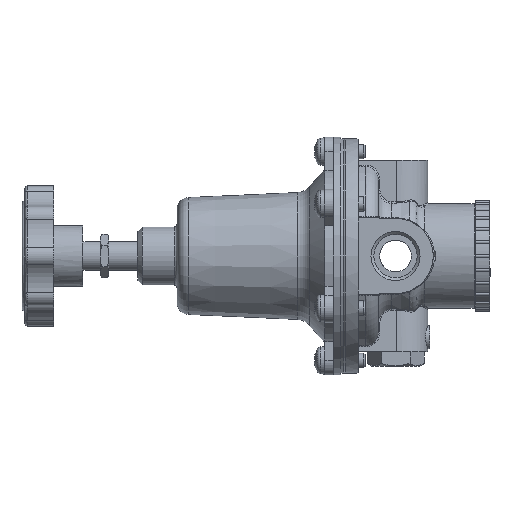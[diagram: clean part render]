
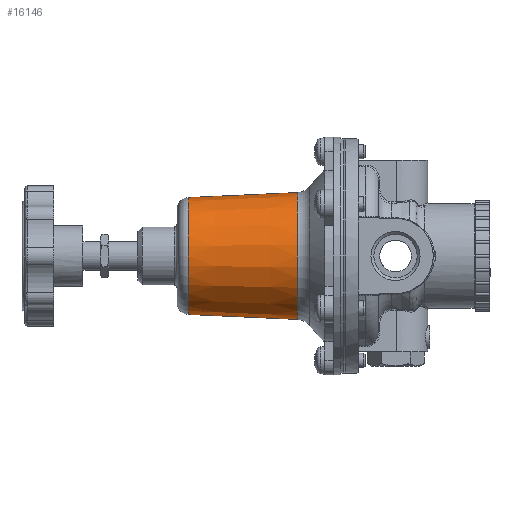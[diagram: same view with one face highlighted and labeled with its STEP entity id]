
A CAD part, left-side view. The second image highlights one B-rep face of the part: STEP entity #16146.
In plain terms, the highlighted conical face has half-angle 2.603 degrees and reference radius 21 mm.
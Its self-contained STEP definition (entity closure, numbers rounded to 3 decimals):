
#709=B_SPLINE_CURVE_WITH_KNOTS('',3,(#31273,#31274,#31275,#31276,#31277,
#31278,#31279,#31280,#31281,#31282,#31283,#31284,#31285,#31286,#31287,#31288,
#31289,#31290,#31291,#31292,#31293,#31294,#31295,#31296,#31297,#31298),
 .UNSPECIFIED.,.F.,.F.,(4,2,2,2,2,2,2,2,2,2,2,2,4),(0.,0.075,
0.15,0.225,0.301,0.376,
0.451,0.526,0.601,0.677,
0.753,0.828,0.904),.UNSPECIFIED.);
#710=B_SPLINE_CURVE_WITH_KNOTS('',3,(#31299,#31300,#31301,#31302,#31303,
#31304,#31305,#31306,#31307,#31308),.UNSPECIFIED.,.F.,.F.,(4,2,2,2,4),(0.904,
0.98,1.055,1.131,1.207),
 .UNSPECIFIED.);
#1002=FACE_BOUND('',#3529,.T.);
#2545=FACE_OUTER_BOUND('',#3528,.T.);
#3528=EDGE_LOOP('',(#13501,#13502,#13503,#13504,#13505,#13506));
#3529=EDGE_LOOP('',(#13507,#13508));
#4411=LINE('',#31585,#5182);
#5182=VECTOR('',#21635,21.);
#6131=CIRCLE('',#17913,21.884);
#6135=CIRCLE('',#17917,21.884);
#6136=CIRCLE('',#17919,20.174);
#6137=CIRCLE('',#17920,20.174);
#7407=VERTEX_POINT('',#31271);
#7408=VERTEX_POINT('',#31272);
#7491=VERTEX_POINT('',#31574);
#7492=VERTEX_POINT('',#31575);
#7495=VERTEX_POINT('',#31584);
#7496=VERTEX_POINT('',#31586);
#9471=EDGE_CURVE('',#7407,#7408,#709,.T.);
#9472=EDGE_CURVE('',#7408,#7407,#710,.T.);
#9605=EDGE_CURVE('',#7491,#7492,#6131,.T.);
#9609=EDGE_CURVE('',#7492,#7491,#6135,.T.);
#9610=EDGE_CURVE('',#7491,#7495,#4411,.T.);
#9611=EDGE_CURVE('',#7496,#7495,#6136,.T.);
#9612=EDGE_CURVE('',#7495,#7496,#6137,.T.);
#13501=ORIENTED_EDGE('',*,*,#9605,.F.);
#13502=ORIENTED_EDGE('',*,*,#9610,.T.);
#13503=ORIENTED_EDGE('',*,*,#9611,.F.);
#13504=ORIENTED_EDGE('',*,*,#9612,.F.);
#13505=ORIENTED_EDGE('',*,*,#9610,.F.);
#13506=ORIENTED_EDGE('',*,*,#9609,.F.);
#13507=ORIENTED_EDGE('',*,*,#9471,.T.);
#13508=ORIENTED_EDGE('',*,*,#9472,.T.);
#15486=CONICAL_SURFACE('',#17918,21.,0.045);
#16146=ADVANCED_FACE('',(#2545,#1002),#15486,.T.);
#17913=AXIS2_PLACEMENT_3D('',#31576,#21623,#21624);
#17917=AXIS2_PLACEMENT_3D('',#31582,#21631,#21632);
#17918=AXIS2_PLACEMENT_3D('',#31583,#21633,#21634);
#17919=AXIS2_PLACEMENT_3D('',#31587,#21636,#21637);
#17920=AXIS2_PLACEMENT_3D('',#31588,#21638,#21639);
#21623=DIRECTION('center_axis',(0.,-1.,0.));
#21624=DIRECTION('ref_axis',(1.,0.,0.));
#21631=DIRECTION('center_axis',(0.,-1.,0.));
#21632=DIRECTION('ref_axis',(1.,0.,0.));
#21633=DIRECTION('center_axis',(0.,-1.,0.));
#21634=DIRECTION('ref_axis',(-1.,0.,0.));
#21635=DIRECTION('',(-0.045,0.999,0.));
#21636=DIRECTION('center_axis',(0.,1.,0.));
#21637=DIRECTION('ref_axis',(1.,0.,0.));
#21638=DIRECTION('center_axis',(0.,1.,0.));
#21639=DIRECTION('ref_axis',(1.,0.,0.));
#31271=CARTESIAN_POINT('',(-20.79,-32.991,-2.));
#31272=CARTESIAN_POINT('',(-20.977,-35.,0.));
#31273=CARTESIAN_POINT('Ctrl Pts',(-20.79,-32.991,
-2.));
#31274=CARTESIAN_POINT('Ctrl Pts',(-20.779,-32.741,
-1.999));
#31275=CARTESIAN_POINT('Ctrl Pts',(-20.772,-32.474,
-1.948));
#31276=CARTESIAN_POINT('Ctrl Pts',(-20.767,-31.984,
-1.743));
#31277=CARTESIAN_POINT('Ctrl Pts',(-20.77,-31.76,
-1.589));
#31278=CARTESIAN_POINT('Ctrl Pts',(-20.778,-31.406,
-1.234));
#31279=CARTESIAN_POINT('Ctrl Pts',(-20.784,-31.253,
-1.009));
#31280=CARTESIAN_POINT('Ctrl Pts',(-20.793,-31.05,
-0.518));
#31281=CARTESIAN_POINT('Ctrl Pts',(-20.795,-31.,
-0.251));
#31282=CARTESIAN_POINT('Ctrl Pts',(-20.795,-31.,
0.251));
#31283=CARTESIAN_POINT('Ctrl Pts',(-20.793,-31.05,0.518));
#31284=CARTESIAN_POINT('Ctrl Pts',(-20.784,-31.253,
1.009));
#31285=CARTESIAN_POINT('Ctrl Pts',(-20.778,-31.406,
1.234));
#31286=CARTESIAN_POINT('Ctrl Pts',(-20.77,-31.76,
1.589));
#31287=CARTESIAN_POINT('Ctrl Pts',(-20.767,-31.984,
1.743));
#31288=CARTESIAN_POINT('Ctrl Pts',(-20.772,-32.474,
1.948));
#31289=CARTESIAN_POINT('Ctrl Pts',(-20.779,-32.741,
1.999));
#31290=CARTESIAN_POINT('Ctrl Pts',(-20.801,-33.244,2.001));
#31291=CARTESIAN_POINT('Ctrl Pts',(-20.819,-33.512,
1.952));
#31292=CARTESIAN_POINT('Ctrl Pts',(-20.859,-34.007,
1.749));
#31293=CARTESIAN_POINT('Ctrl Pts',(-20.882,-34.233,1.595));
#31294=CARTESIAN_POINT('Ctrl Pts',(-20.923,-34.589,1.24));
#31295=CARTESIAN_POINT('Ctrl Pts',(-20.943,-34.744,
1.015));
#31296=CARTESIAN_POINT('Ctrl Pts',(-20.97,-34.949,
0.521));
#31297=CARTESIAN_POINT('Ctrl Pts',(-20.977,-35.,
0.252));
#31298=CARTESIAN_POINT('Ctrl Pts',(-20.977,-35.,
0.));
#31299=CARTESIAN_POINT('Ctrl Pts',(-20.977,-35.,
0.));
#31300=CARTESIAN_POINT('Ctrl Pts',(-20.977,-35.,
-0.252));
#31301=CARTESIAN_POINT('Ctrl Pts',(-20.97,-34.949,
-0.521));
#31302=CARTESIAN_POINT('Ctrl Pts',(-20.943,-34.744,
-1.015));
#31303=CARTESIAN_POINT('Ctrl Pts',(-20.923,-34.589,-1.24));
#31304=CARTESIAN_POINT('Ctrl Pts',(-20.882,-34.233,-1.595));
#31305=CARTESIAN_POINT('Ctrl Pts',(-20.859,-34.007,
-1.749));
#31306=CARTESIAN_POINT('Ctrl Pts',(-20.819,-33.512,
-1.952));
#31307=CARTESIAN_POINT('Ctrl Pts',(-20.801,-33.244,-2.001));
#31308=CARTESIAN_POINT('Ctrl Pts',(-20.79,-32.991,
-2.));
#31574=CARTESIAN_POINT('',(21.884,-54.943,0.));
#31575=CARTESIAN_POINT('',(0.,-54.943,-21.884));
#31576=CARTESIAN_POINT('Origin',(0.,-54.943,
0.));
#31582=CARTESIAN_POINT('Origin',(0.,-54.943,
0.));
#31583=CARTESIAN_POINT('Origin',(0.,-35.5,0.));
#31584=CARTESIAN_POINT('',(20.174,-17.318,0.));
#31585=CARTESIAN_POINT('',(21.,-35.5,0.));
#31586=CARTESIAN_POINT('',(0.,-17.318,-20.174));
#31587=CARTESIAN_POINT('Origin',(0.,-17.318,
0.));
#31588=CARTESIAN_POINT('Origin',(0.,-17.318,
0.));
